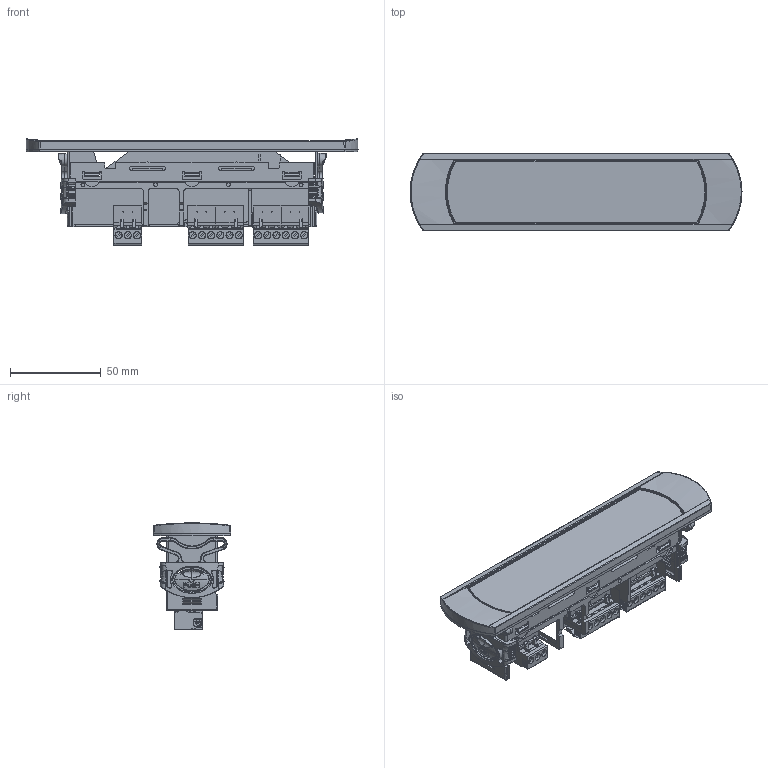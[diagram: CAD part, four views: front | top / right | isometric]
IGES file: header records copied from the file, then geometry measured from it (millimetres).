
Start section: SolidWorks IGES file using analytic representation for surfaces
Global section: file name: F:\3D\3D lavori_aperti\Carel\A_pezzi finiti\40_easy small wide\easy small wide_.IGS; native system: SolidWorks 2015; preprocessor: SolidWorks 2015; author: utente; date: 170131.163205; units: millimetre
Bounding box: 182.7 x 42.5 x 58.45 mm (x, y, z)
Surface area: 55729.9 mm2 (no closed solid volume)
Topology: 0 solids, 0 shells, 3270 faces, 17204 edges, 16990 vertices
Faces by surface type: bspline 2525, revolution 745
